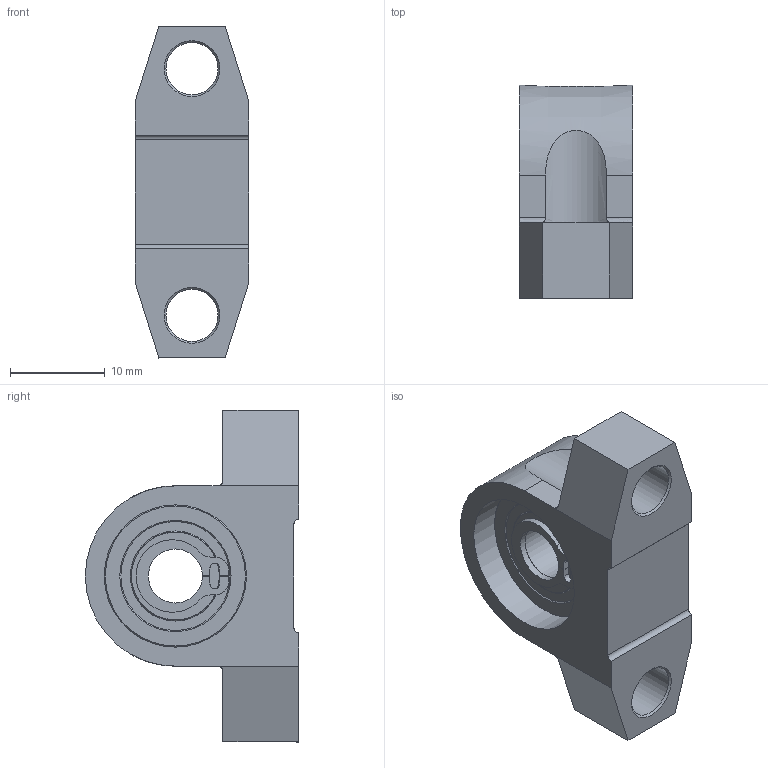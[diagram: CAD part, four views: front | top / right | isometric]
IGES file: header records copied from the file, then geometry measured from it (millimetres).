
Global section: file name:  ; native system: Kubotek KeyCreator; preprocessor: KCM Version 1.1.28; author: KeyCreator•p{ž; organization: Self; date: 20161124.020218; units: millimetre
Bounding box: 12 x 22.5 x 35 mm (x, y, z)
Surface area: 2767.9 mm2 (no closed solid volume)
Topology: 0 solids, 0 shells, 74 faces, 355 edges, 339 vertices
Faces by surface type: plane 40, revolution 34
